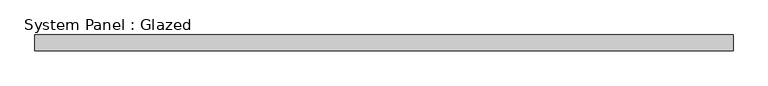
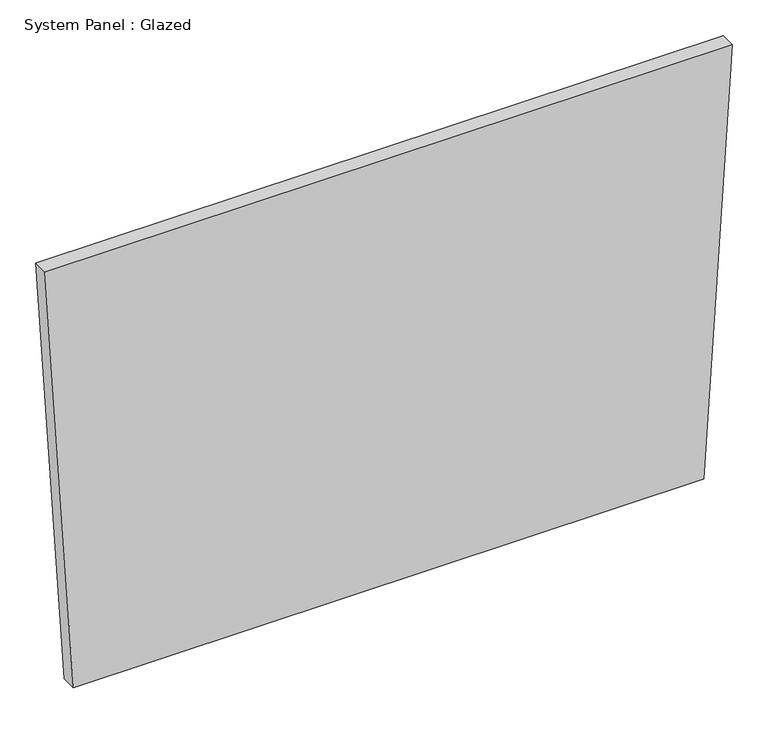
"""IFC4 building model written with IfcOpenShell, lengths in millimetres: plate geometry, System Panel : Glazed."""

from ifc_helpers import new_model, si_unit, frame, origin, place, context, project, spatial, polyline, outline, extrude, source, transform, mapped, element, save


def system_panel_glazed_4a051760(model_context):
    return source(origin(), model_context, "Body", "SweptSolid", [
        extrude(outline(polyline([(0.0008836, -507.404862), (0.0, 507.404867), (723.4639144, 553.0809451), (723.4648775, -553.0809451), (0.0008836, -507.404862)])), frame((0.0, 19.05, 0.0), z_axis=(0.0, 1.0, 0.0), x_axis=(0.0, 0.0, 1.0)), (0.0, 0.0, 1.0), 25.4),
    ])


if __name__ == "__main__":
    model = new_model("IFC4")
    model_context = context("Model", 3, world=origin())
    ifc_project = project(units=[si_unit("LENGTHUNIT", "METRE", prefix="MILLI")], contexts=[model_context])
    site = spatial("IfcSite", under=ifc_project)
    building = spatial("IfcBuilding", under=site)
    placement = place(None, origin())
    system_panel_glazed_shape = system_panel_glazed_4a051760(model_context)
    element("IfcPlate", 1, ObjectType="System Panel : Glazed", at=placement, inside=building, context=model_context, shape_type="MappedRepresentation", body=[
        mapped(system_panel_glazed_shape, transform((0.0, 0.0, 0.0), x_axis=(1.0, 0.0, 0.0), y_axis=(0.0, 1.0, 0.0), z_axis=(0.0, 0.0, 1.0))),
    ])
    save(model, "model.ifc")
